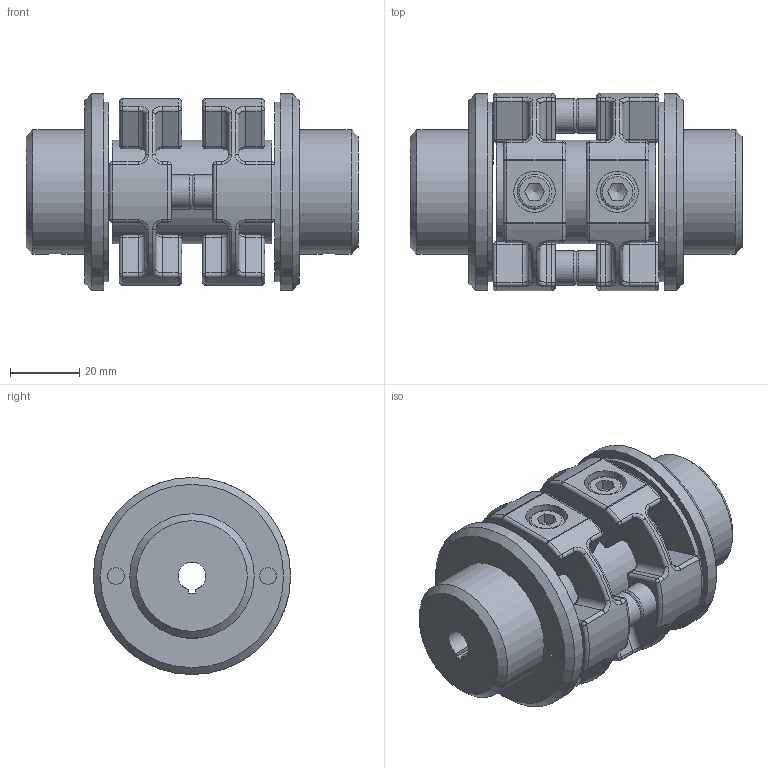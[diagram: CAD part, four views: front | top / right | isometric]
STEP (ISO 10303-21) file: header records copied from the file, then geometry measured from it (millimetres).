
FILE_DESCRIPTION(/* description */ (''),/* implementation_level */ '2;1');
FILE_NAME(/* name */ 'GX01-L48-8-PF-8-PF',/* time_stamp */ '2024-01-05T15:34:20+01:00',/* author */ ('M. Horlacher'),/* organization */ (''),/* preprocessor_version */ 'ST-DEVELOPER v20',/* originating_system */ 'Autodesk Inventor 2024',/* authorisation */ '');
FILE_SCHEMA (('AUTOMOTIVE_DESIGN { 1 0 10303 214 3 1 1 }'));
Length unit declared in the file: millimetre
Products named in the file (9): RP STEP; VE Rohr Dummy; GX01 Befestigungssatz ST; 100305-1057s; 080305-1405s; ISO 4762 - M6 x 10 - 8.8 - VZ A1A; ISO 4762 - M6 x 25 - 8.8 - VZ A1A; GX01-Nabe; GX01-Nabe_1
Assembly tree (11 placements, depth 3):
  RP STEP
    VE Rohr Dummy
    GX01 Befestigungssatz ST  x2
      100305-1057s
      080305-1405s
      ISO 4762 - M6 x 10 - 8.8 - VZ A1A
      ISO 4762 - M6 x 25 - 8.8 - VZ A1A
    GX01-Nabe
    GX01-Nabe_1
Bounding box: 96 x 57 x 57 mm (x, y, z)
Volume: 124680.7 mm3; surface area: 56224 mm2
Topology: 15 solids, 15 shells, 626 faces, 1494 edges, 826 vertices
Faces by surface type: cylinder 202, plane 170, torus 88, sphere 80, bspline 64, cone 22
Full cylindrical faces by diameter (mm): 4.917 x10, 6 x16, 10 x8, 12 x4, 18 x2, 27 x3, 30 x3, 36 x2, 52 x2, 57 x2
Entity records: 10183 total; most frequent: CARTESIAN_POINT 2991, DIRECTION 1515, ORIENTED_EDGE 1372, EDGE_CURVE 686, AXIS2_PLACEMENT_3D 636, VERTEX_POINT 401, EDGE_LOOP 343, CIRCLE 338
